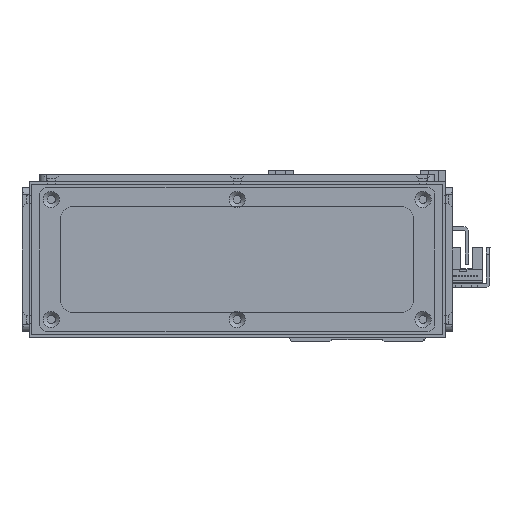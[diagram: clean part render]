
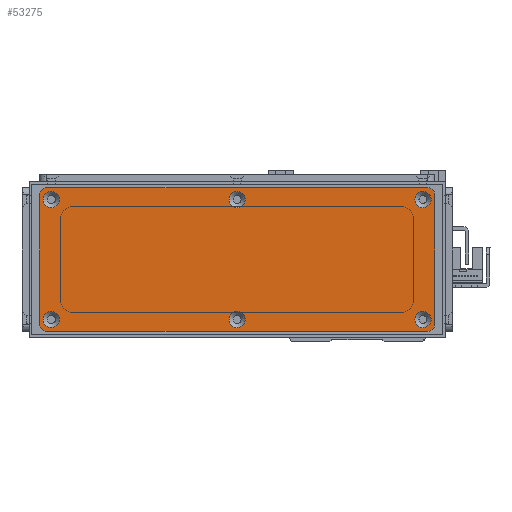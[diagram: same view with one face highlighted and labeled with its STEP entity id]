
A CAD part, left-side view. The second image highlights one B-rep face of the part: STEP entity #53275.
In plain terms, the highlighted planar face has unit normal (-1, 0, 0) as drawn and (0, 0, 1) by its records, which use the part's own axes.
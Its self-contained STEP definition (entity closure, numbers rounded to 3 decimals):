
#854=FACE_BOUND('',#9051,.T.);
#855=FACE_BOUND('',#9052,.T.);
#856=FACE_BOUND('',#9053,.T.);
#857=FACE_BOUND('',#9054,.T.);
#858=FACE_BOUND('',#9055,.T.);
#859=FACE_BOUND('',#9056,.T.);
#2814=PLANE('',#57305);
#5917=FACE_OUTER_BOUND('',#9050,.T.);
#9050=EDGE_LOOP('',(#48641,#48642,#48643,#48644,#48645,#48646,#48647,#48648));
#9051=EDGE_LOOP('',(#48649));
#9052=EDGE_LOOP('',(#48650));
#9053=EDGE_LOOP('',(#48651));
#9054=EDGE_LOOP('',(#48652));
#9055=EDGE_LOOP('',(#48653));
#9056=EDGE_LOOP('',(#48654));
#15143=LINE('',#85994,#21329);
#15146=LINE('',#86002,#21332);
#15149=LINE('',#86010,#21335);
#15152=LINE('',#86017,#21338);
#21329=VECTOR('',#70025,10.);
#21332=VECTOR('',#70034,10.);
#21335=VECTOR('',#70043,10.);
#21338=VECTOR('',#70052,10.);
#22845=CIRCLE('',#57259,3.45);
#22848=CIRCLE('',#57264,3.45);
#22851=CIRCLE('',#57269,3.45);
#22854=CIRCLE('',#57274,3.45);
#22857=CIRCLE('',#57279,3.45);
#22860=CIRCLE('',#57284,3.45);
#22867=CIRCLE('',#57294,3.);
#22868=CIRCLE('',#57297,3.);
#22869=CIRCLE('',#57300,3.);
#22870=CIRCLE('',#57303,3.);
#27530=VERTEX_POINT('',#85910);
#27533=VERTEX_POINT('',#85920);
#27536=VERTEX_POINT('',#85930);
#27539=VERTEX_POINT('',#85940);
#27542=VERTEX_POINT('',#85950);
#27545=VERTEX_POINT('',#85960);
#27556=VERTEX_POINT('',#85987);
#27557=VERTEX_POINT('',#85989);
#27558=VERTEX_POINT('',#85993);
#27559=VERTEX_POINT('',#85997);
#27560=VERTEX_POINT('',#86001);
#27561=VERTEX_POINT('',#86005);
#27562=VERTEX_POINT('',#86009);
#27563=VERTEX_POINT('',#86013);
#34658=EDGE_CURVE('',#27530,#27530,#22845,.T.);
#34663=EDGE_CURVE('',#27533,#27533,#22848,.T.);
#34668=EDGE_CURVE('',#27536,#27536,#22851,.T.);
#34673=EDGE_CURVE('',#27539,#27539,#22854,.T.);
#34678=EDGE_CURVE('',#27542,#27542,#22857,.T.);
#34683=EDGE_CURVE('',#27545,#27545,#22860,.T.);
#34697=EDGE_CURVE('',#27557,#27556,#22867,.T.);
#34699=EDGE_CURVE('',#27558,#27557,#15143,.T.);
#34701=EDGE_CURVE('',#27559,#27558,#22868,.T.);
#34703=EDGE_CURVE('',#27560,#27559,#15146,.T.);
#34705=EDGE_CURVE('',#27561,#27560,#22869,.T.);
#34707=EDGE_CURVE('',#27562,#27561,#15149,.T.);
#34709=EDGE_CURVE('',#27563,#27562,#22870,.T.);
#34711=EDGE_CURVE('',#27556,#27563,#15152,.T.);
#48641=ORIENTED_EDGE('',*,*,#34711,.T.);
#48642=ORIENTED_EDGE('',*,*,#34709,.T.);
#48643=ORIENTED_EDGE('',*,*,#34707,.T.);
#48644=ORIENTED_EDGE('',*,*,#34705,.T.);
#48645=ORIENTED_EDGE('',*,*,#34703,.T.);
#48646=ORIENTED_EDGE('',*,*,#34701,.T.);
#48647=ORIENTED_EDGE('',*,*,#34699,.T.);
#48648=ORIENTED_EDGE('',*,*,#34697,.T.);
#48649=ORIENTED_EDGE('',*,*,#34658,.T.);
#48650=ORIENTED_EDGE('',*,*,#34663,.T.);
#48651=ORIENTED_EDGE('',*,*,#34668,.T.);
#48652=ORIENTED_EDGE('',*,*,#34673,.T.);
#48653=ORIENTED_EDGE('',*,*,#34678,.T.);
#48654=ORIENTED_EDGE('',*,*,#34683,.T.);
#53275=ADVANCED_FACE('',(#5917,#854,#855,#856,#857,#858,#859),#2814,.T.);
#57259=AXIS2_PLACEMENT_3D('',#85911,#69933,#69934);
#57264=AXIS2_PLACEMENT_3D('',#85921,#69945,#69946);
#57269=AXIS2_PLACEMENT_3D('',#85931,#69957,#69958);
#57274=AXIS2_PLACEMENT_3D('',#85941,#69969,#69970);
#57279=AXIS2_PLACEMENT_3D('',#85951,#69981,#69982);
#57284=AXIS2_PLACEMENT_3D('',#85961,#69993,#69994);
#57294=AXIS2_PLACEMENT_3D('',#85990,#70020,#70021);
#57297=AXIS2_PLACEMENT_3D('',#85998,#70029,#70030);
#57300=AXIS2_PLACEMENT_3D('',#86006,#70038,#70039);
#57303=AXIS2_PLACEMENT_3D('',#86014,#70047,#70048);
#57305=AXIS2_PLACEMENT_3D('',#86018,#70053,#70054);
#69933=DIRECTION('center_axis',(0.,0.,-1.));
#69934=DIRECTION('ref_axis',(1.,0.,0.));
#69945=DIRECTION('center_axis',(0.,0.,-1.));
#69946=DIRECTION('ref_axis',(1.,0.,0.));
#69957=DIRECTION('center_axis',(0.,0.,-1.));
#69958=DIRECTION('ref_axis',(1.,0.,0.));
#69969=DIRECTION('center_axis',(0.,0.,-1.));
#69970=DIRECTION('ref_axis',(1.,0.,0.));
#69981=DIRECTION('center_axis',(0.,0.,-1.));
#69982=DIRECTION('ref_axis',(1.,0.,0.));
#69993=DIRECTION('center_axis',(0.,0.,-1.));
#69994=DIRECTION('ref_axis',(1.,0.,0.));
#70020=DIRECTION('center_axis',(0.,0.,1.));
#70021=DIRECTION('ref_axis',(-1.,0.,0.));
#70025=DIRECTION('',(0.,1.,0.));
#70029=DIRECTION('center_axis',(0.,0.,1.));
#70030=DIRECTION('ref_axis',(0.,1.,0.));
#70034=DIRECTION('',(1.,0.,0.));
#70038=DIRECTION('center_axis',(0.,0.,1.));
#70039=DIRECTION('ref_axis',(1.,0.,0.));
#70043=DIRECTION('',(0.,-1.,0.));
#70047=DIRECTION('center_axis',(0.,0.,1.));
#70048=DIRECTION('ref_axis',(0.,-1.,0.));
#70052=DIRECTION('',(-1.,0.,0.));
#70053=DIRECTION('center_axis',(0.,0.,1.));
#70054=DIRECTION('ref_axis',(1.,0.,0.));
#85910=CARTESIAN_POINT('',(-3.45,25.5,1.5));
#85911=CARTESIAN_POINT('Origin',(0.,25.5,1.5));
#85920=CARTESIAN_POINT('',(75.55,-25.5,1.5));
#85921=CARTESIAN_POINT('Origin',(79.,-25.5,1.5));
#85930=CARTESIAN_POINT('',(-82.45,25.5,1.5));
#85931=CARTESIAN_POINT('Origin',(-79.,25.5,1.5));
#85940=CARTESIAN_POINT('',(75.55,25.5,1.5));
#85941=CARTESIAN_POINT('Origin',(79.,25.5,1.5));
#85950=CARTESIAN_POINT('',(-82.45,-25.5,1.5));
#85951=CARTESIAN_POINT('Origin',(-79.,-25.5,1.5));
#85960=CARTESIAN_POINT('',(-3.45,-25.5,1.5));
#85961=CARTESIAN_POINT('Origin',(0.,-25.5,1.5));
#85987=CARTESIAN_POINT('',(81.,30.5,1.5));
#85989=CARTESIAN_POINT('',(84.,27.5,1.5));
#85990=CARTESIAN_POINT('Origin',(81.,27.5,1.5));
#85993=CARTESIAN_POINT('',(84.,-27.5,1.5));
#85994=CARTESIAN_POINT('',(84.,27.5,1.5));
#85997=CARTESIAN_POINT('',(81.,-30.5,1.5));
#85998=CARTESIAN_POINT('Origin',(81.,-27.5,1.5));
#86001=CARTESIAN_POINT('',(-81.,-30.5,1.5));
#86002=CARTESIAN_POINT('',(81.,-30.5,1.5));
#86005=CARTESIAN_POINT('',(-84.,-27.5,1.5));
#86006=CARTESIAN_POINT('Origin',(-81.,-27.5,1.5));
#86009=CARTESIAN_POINT('',(-84.,27.5,1.5));
#86010=CARTESIAN_POINT('',(-84.,-27.5,1.5));
#86013=CARTESIAN_POINT('',(-81.,30.5,1.5));
#86014=CARTESIAN_POINT('Origin',(-81.,27.5,1.5));
#86017=CARTESIAN_POINT('',(-81.,30.5,1.5));
#86018=CARTESIAN_POINT('Origin',(0.,0.,
1.5));
